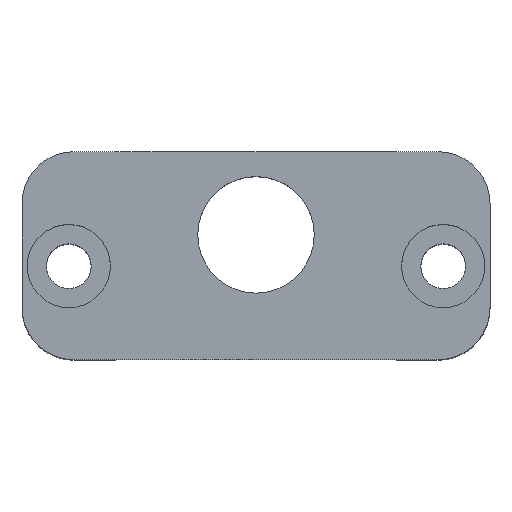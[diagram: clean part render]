
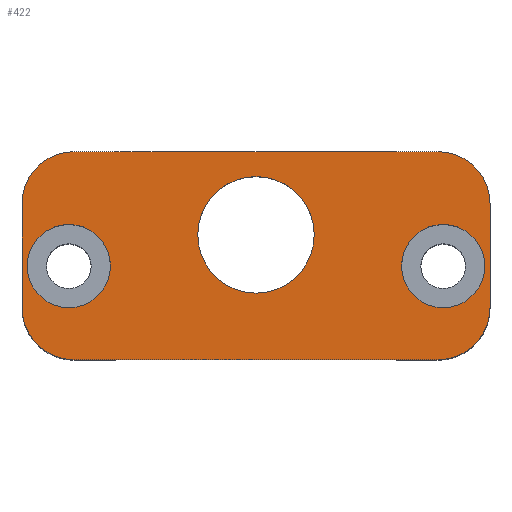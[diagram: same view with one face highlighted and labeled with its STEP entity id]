
A CAD part, top view. The second image highlights one B-rep face of the part: STEP entity #422.
In plain terms, the highlighted planar face has unit normal (0, 0, 1).
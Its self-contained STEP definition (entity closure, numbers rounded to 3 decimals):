
#19=FACE_BOUND('',#84,.T.);
#20=FACE_BOUND('',#85,.T.);
#21=FACE_BOUND('',#86,.T.);
#33=PLANE('',#487);
#56=FACE_OUTER_BOUND('',#83,.T.);
#83=EDGE_LOOP('',(#374,#375,#376,#377,#378,#379,#380,#381));
#84=EDGE_LOOP('',(#382));
#85=EDGE_LOOP('',(#383));
#86=EDGE_LOOP('',(#384));
#93=LINE('',#631,#128);
#103=LINE('',#661,#138);
#109=LINE('',#682,#144);
#122=LINE('',#731,#157);
#128=VECTOR('',#503,10.);
#138=VECTOR('',#529,10.);
#144=VECTOR('',#549,10.);
#157=VECTOR('',#610,10.);
#160=CIRCLE('',#446,5.);
#163=CIRCLE('',#452,5.);
#167=CIRCLE('',#458,5.);
#170=CIRCLE('',#464,5.);
#173=CIRCLE('',#469,4.);
#176=CIRCLE('',#475,4.);
#180=CIRCLE('',#485,5.6);
#183=VERTEX_POINT('',#621);
#184=VERTEX_POINT('',#623);
#186=VERTEX_POINT('',#629);
#191=VERTEX_POINT('',#643);
#198=VERTEX_POINT('',#659);
#201=VERTEX_POINT('',#666);
#202=VERTEX_POINT('',#668);
#206=VERTEX_POINT('',#681);
#209=VERTEX_POINT('',#692);
#212=VERTEX_POINT('',#703);
#218=VERTEX_POINT('',#727);
#221=EDGE_CURVE('',#183,#184,#160,.T.);
#225=EDGE_CURVE('',#183,#186,#93,.T.);
#232=EDGE_CURVE('',#191,#186,#163,.T.);
#240=EDGE_CURVE('',#191,#198,#103,.T.);
#243=EDGE_CURVE('',#201,#202,#167,.T.);
#250=EDGE_CURVE('',#206,#202,#109,.T.);
#252=EDGE_CURVE('',#206,#198,#170,.T.);
#255=EDGE_CURVE('',#209,#209,#173,.T.);
#260=EDGE_CURVE('',#212,#212,#176,.T.);
#273=EDGE_CURVE('',#218,#218,#180,.T.);
#274=EDGE_CURVE('',#201,#184,#122,.T.);
#374=ORIENTED_EDGE('',*,*,#221,.F.);
#375=ORIENTED_EDGE('',*,*,#225,.T.);
#376=ORIENTED_EDGE('',*,*,#232,.F.);
#377=ORIENTED_EDGE('',*,*,#240,.T.);
#378=ORIENTED_EDGE('',*,*,#252,.F.);
#379=ORIENTED_EDGE('',*,*,#250,.T.);
#380=ORIENTED_EDGE('',*,*,#243,.F.);
#381=ORIENTED_EDGE('',*,*,#274,.T.);
#382=ORIENTED_EDGE('',*,*,#255,.T.);
#383=ORIENTED_EDGE('',*,*,#260,.T.);
#384=ORIENTED_EDGE('',*,*,#273,.T.);
#422=ADVANCED_FACE('',(#56,#19,#20,#21),#33,.T.);
#446=AXIS2_PLACEMENT_3D('',#624,#496,#497);
#452=AXIS2_PLACEMENT_3D('',#645,#516,#517);
#458=AXIS2_PLACEMENT_3D('',#669,#535,#536);
#464=AXIS2_PLACEMENT_3D('',#685,#553,#554);
#469=AXIS2_PLACEMENT_3D('',#693,#563,#564);
#475=AXIS2_PLACEMENT_3D('',#704,#577,#578);
#485=AXIS2_PLACEMENT_3D('',#729,#606,#607);
#487=AXIS2_PLACEMENT_3D('',#733,#612,#613);
#496=DIRECTION('center_axis',(0.,0.,-1.));
#497=DIRECTION('ref_axis',(0.707,-0.707,0.));
#503=DIRECTION('',(0.,1.,0.));
#516=DIRECTION('center_axis',(0.,0.,-1.));
#517=DIRECTION('ref_axis',(0.707,0.707,0.));
#529=DIRECTION('',(-1.,0.,0.));
#535=DIRECTION('center_axis',(0.,0.,-1.));
#536=DIRECTION('ref_axis',(-0.707,-0.707,0.));
#549=DIRECTION('',(0.,-1.,0.));
#553=DIRECTION('center_axis',(0.,0.,-1.));
#554=DIRECTION('ref_axis',(-0.707,0.707,0.));
#563=DIRECTION('center_axis',(0.,0.,-1.));
#564=DIRECTION('ref_axis',(1.,0.,0.));
#577=DIRECTION('center_axis',(0.,0.,-1.));
#578=DIRECTION('ref_axis',(1.,0.,0.));
#606=DIRECTION('center_axis',(0.,0.,-1.));
#607=DIRECTION('ref_axis',(-1.,0.,0.));
#610=DIRECTION('',(1.,0.,0.));
#612=DIRECTION('center_axis',(0.,0.,1.));
#613=DIRECTION('ref_axis',(1.,0.,0.));
#621=CARTESIAN_POINT('',(22.5,-7.,0.));
#623=CARTESIAN_POINT('',(17.5,-12.,0.));
#624=CARTESIAN_POINT('Origin',(17.5,-7.,0.));
#629=CARTESIAN_POINT('',(22.5,3.,0.));
#631=CARTESIAN_POINT('',(22.5,-12.,0.));
#643=CARTESIAN_POINT('',(17.5,8.,0.));
#645=CARTESIAN_POINT('Origin',(17.5,3.,0.));
#659=CARTESIAN_POINT('',(-17.5,8.,0.));
#661=CARTESIAN_POINT('',(22.5,8.,0.));
#666=CARTESIAN_POINT('',(-17.5,-12.,0.));
#668=CARTESIAN_POINT('',(-22.5,-7.,0.));
#669=CARTESIAN_POINT('Origin',(-17.5,-7.,0.));
#681=CARTESIAN_POINT('',(-22.5,3.,0.));
#682=CARTESIAN_POINT('',(-22.5,8.,0.));
#685=CARTESIAN_POINT('Origin',(-17.5,3.,0.));
#692=CARTESIAN_POINT('',(14.,-3.,0.));
#693=CARTESIAN_POINT('Origin',(18.,-3.,0.));
#703=CARTESIAN_POINT('',(-22.,-3.,0.));
#704=CARTESIAN_POINT('Origin',(-18.,-3.,0.));
#727=CARTESIAN_POINT('',(5.6,0.,0.));
#729=CARTESIAN_POINT('Origin',(0.,0.,0.));
#731=CARTESIAN_POINT('',(-22.5,-12.,0.));
#733=CARTESIAN_POINT('Origin',(0.,-2.,0.));
